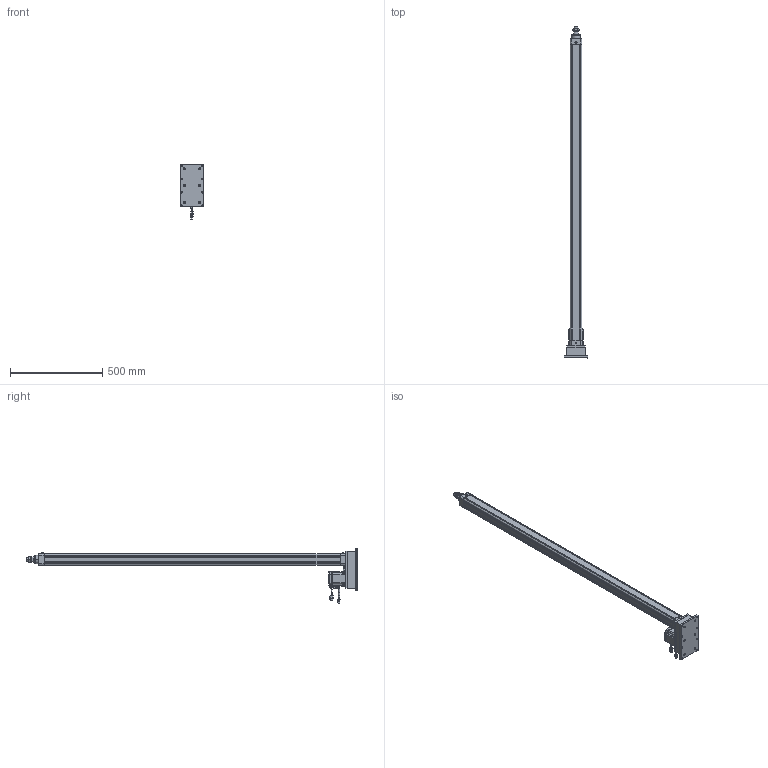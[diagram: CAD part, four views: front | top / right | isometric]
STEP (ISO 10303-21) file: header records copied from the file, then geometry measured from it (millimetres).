
FILE_DESCRIPTION((''),'2;1');
FILE_NAME('HE50-D-100-X1_ASM','2020-04-25T',('ASUS20200'),(''),'CREO PARAMETRIC BY PTC INC, 2014190','CREO PARAMETRIC BY PTC INC, 2014190','');
FILE_SCHEMA(('CONFIG_CONTROL_DESIGN'));
Length unit declared in the file: millimetre
Products named in the file (29): HE50-D-P-001-X1; HE50-D-P-002-X1; HE50-D-P-003-X1; 6301ZZ; LGLM-M8-22; SLM-01; YZ-M6X1; HE50-P-010-X1-400W; _MHMF082L1A2; _CABLE_MOTOR_BOTTOM_05; _CABLE_MOTOR_TOP_05; _MOTOR_CONNECTOR_2; _CABLE_BRAKE_BOTTOM_05; _CABLE_BRAKE_TOP_05; _MHMF_CONNECTOR_9_PIN_A6; MHMF082L1A2M2_1_ASM; TD-6; M6X25; LM-M6X1; JX6X6X20; M6X25-DS; LM-M6-15; HE50-P-012-X1; HE50-P-013-X1; M6X60; HE50-D-P-005-X1; HE50-D-P-004-X1; HE50-D-P-008-X1; HE50-D-100-X1_ASM
Assembly tree (50 placements, depth 3):
  HE50-D-100-X1_ASM
    HE50-D-P-001-X1
    HE50-D-P-002-X1
    HE50-D-P-003-X1
    6301ZZ
    LGLM-M8-22  x8
    SLM-01
    YZ-M6X1
    HE50-P-010-X1-400W
    MHMF082L1A2M2_1_ASM
      _MHMF082L1A2
      _CABLE_MOTOR_BOTTOM_05
      _CABLE_MOTOR_TOP_05
      _MOTOR_CONNECTOR_2
      _CABLE_BRAKE_BOTTOM_05
      _CABLE_BRAKE_TOP_05
      _MHMF_CONNECTOR_9_PIN_A6
    TD-6  x4
    M6X25  x4
    LM-M6X1  x5
    JX6X6X20
    M6X25-DS
    LM-M6-15
    HE50-P-012-X1
    HE50-P-013-X1
    M6X60  x6
    HE50-D-P-005-X1
    HE50-D-P-004-X1
    HE50-D-P-008-X1
Bounding box: 130 x 1798.5 x 298.65 mm (x, y, z)
Volume: 4280140 mm3; surface area: 1280893.5 mm2
Topology: 49 solids, 79 shells, 2744 faces, 6618 edges, 4119 vertices
Faces by surface type: plane 1159, cylinder 759, cone 643, torus 138, sphere 42, bspline 3
Entity records: 66241 total; most frequent: CARTESIAN_POINT 12515, DIRECTION 11811, ORIENTED_EDGE 10524, EDGE_CURVE 5312, AXIS2_PLACEMENT_3D 4431, VERTEX_POINT 3338, VECTOR 2949, LINE 2949
